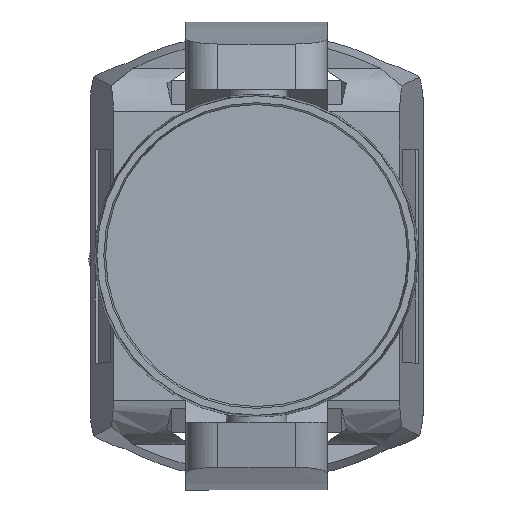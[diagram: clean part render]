
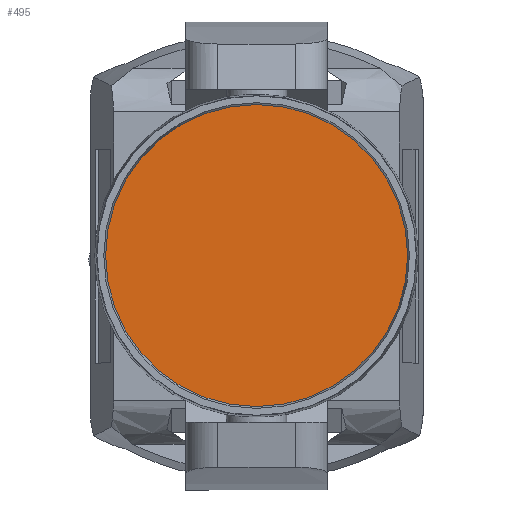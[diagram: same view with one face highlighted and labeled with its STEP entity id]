
A CAD part, top view. The second image highlights one B-rep face of the part: STEP entity #495.
In plain terms, the highlighted planar face has unit normal (0, 0, 1).
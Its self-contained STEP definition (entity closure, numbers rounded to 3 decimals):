
#495 = ADVANCED_FACE( '', ( #1074 ), #1075, .F. );
#1074 = FACE_OUTER_BOUND( '', #1857, .T. );
#1075 = PLANE( '', #1858 );
#1857 = EDGE_LOOP( '', ( #3002 ) );
#1858 = AXIS2_PLACEMENT_3D( '', #3003, #3004, #3005 );
#3002 = ORIENTED_EDGE( '', *, *, #4415, .F. );
#3003 = CARTESIAN_POINT( '', ( -94.936, 0., 346.211 ) );
#3004 = DIRECTION( '', ( 0., 0., -1. ) );
#3005 = DIRECTION( '', ( -1., 0., 0. ) );
#4415 = EDGE_CURVE( '', #5170, #5170, #5171, .T. );
#5170 = VERTEX_POINT( '', #6277 );
#5171 = CIRCLE( '', #6278, 94.936 );
#6277 = CARTESIAN_POINT( '', ( -94.936, 0., 346.211 ) );
#6278 = AXIS2_PLACEMENT_3D( '', #8554, #8555, #8556 );
#8554 = CARTESIAN_POINT( '', ( 0., 0., 346.211 ) );
#8555 = DIRECTION( '', ( 0., 0., -1. ) );
#8556 = DIRECTION( '', ( -1., 0., 0. ) );
